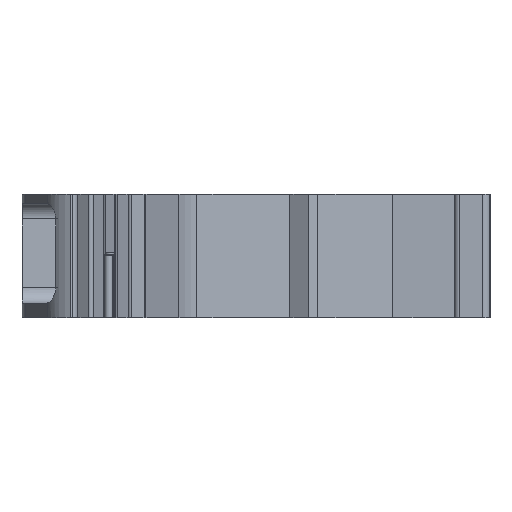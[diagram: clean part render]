
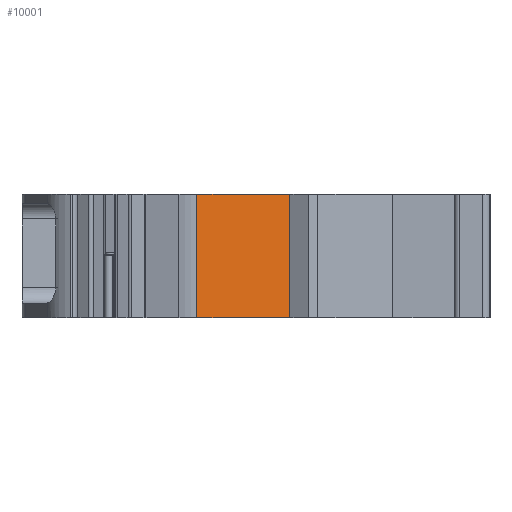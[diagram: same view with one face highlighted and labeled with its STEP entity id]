
A CAD part, left-side view. The second image highlights one B-rep face of the part: STEP entity #10001.
In plain terms, the highlighted planar face has unit normal (-0.978, -0.208, 0).
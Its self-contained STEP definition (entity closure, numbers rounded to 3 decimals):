
#818 = VERTEX_POINT ( 'NONE', #21021 ) ;
#1438 = DIRECTION ( 'NONE',  ( -0.978, -0.208, 0. ) ) ;
#2088 = VERTEX_POINT ( 'NONE', #18678 ) ;
#4162 = VERTEX_POINT ( 'NONE', #52481 ) ;
#9197 = FACE_OUTER_BOUND ( 'NONE', #29838, .T. ) ;
#10001 = ADVANCED_FACE ( 'NONE', ( #9197 ), #44061, .T. ) ;
#10365 = VECTOR ( 'NONE', #30959, 1000. ) ;
#10502 = EDGE_CURVE ( 'NONE', #2088, #11541, #22271, .T. ) ;
#11541 = VERTEX_POINT ( 'NONE', #49606 ) ;
#13472 = LINE ( 'NONE', #34473, #16130 ) ;
#13794 = AXIS2_PLACEMENT_3D ( 'NONE', #18666, #1438, #43514 ) ;
#16130 = VECTOR ( 'NONE', #51135, 1000. ) ;
#16376 = ORIENTED_EDGE ( 'NONE', *, *, #19586, .F. ) ;
#18637 = VECTOR ( 'NONE', #54198, 1000. ) ;
#18666 = CARTESIAN_POINT ( 'NONE',  ( -44.5, -4.4, -16. ) ) ;
#18678 = CARTESIAN_POINT ( 'NONE',  ( -49.891, 20.961, -16. ) ) ;
#19586 = EDGE_CURVE ( 'NONE', #818, #4162, #54408, .T. ) ;
#21021 = CARTESIAN_POINT ( 'NONE',  ( -49.891, 20.961, 0. ) ) ;
#22271 = LINE ( 'NONE', #31331, #43494 ) ;
#22926 = ORIENTED_EDGE ( 'NONE', *, *, #10502, .T. ) ;
#26715 = EDGE_CURVE ( 'NONE', #818, #2088, #40863, .T. ) ;
#29838 = EDGE_LOOP ( 'NONE', ( #35875, #16376, #34112, #22926 ) ) ;
#30959 = DIRECTION ( 'NONE',  ( 0., 0., -1. ) ) ;
#31331 = CARTESIAN_POINT ( 'NONE',  ( -44.5, -4.4, -16. ) ) ;
#32182 = CARTESIAN_POINT ( 'NONE',  ( -44.5, -4.4, 0. ) ) ;
#33941 = CARTESIAN_POINT ( 'NONE',  ( -49.891, 20.961, -16. ) ) ;
#34112 = ORIENTED_EDGE ( 'NONE', *, *, #26715, .T. ) ;
#34473 = CARTESIAN_POINT ( 'NONE',  ( -47.331, 8.919, -20.231 ) ) ;
#35620 = DIRECTION ( 'NONE',  ( 0.208, -0.978, 0. ) ) ;
#35875 = ORIENTED_EDGE ( 'NONE', *, *, #42169, .T. ) ;
#40863 = LINE ( 'NONE', #33941, #10365 ) ;
#42169 = EDGE_CURVE ( 'NONE', #11541, #4162, #13472, .T. ) ;
#43494 = VECTOR ( 'NONE', #35620, 1000. ) ;
#43514 = DIRECTION ( 'NONE',  ( 0.208, -0.978, 0. ) ) ;
#44061 = PLANE ( 'NONE',  #13794 ) ;
#49606 = CARTESIAN_POINT ( 'NONE',  ( -47.331, 8.919, -16. ) ) ;
#51135 = DIRECTION ( 'NONE',  ( 0., 0., 1. ) ) ;
#52481 = CARTESIAN_POINT ( 'NONE',  ( -47.331, 8.919, 0. ) ) ;
#54198 = DIRECTION ( 'NONE',  ( 0.208, -0.978, 0. ) ) ;
#54408 = LINE ( 'NONE', #32182, #18637 ) ;
